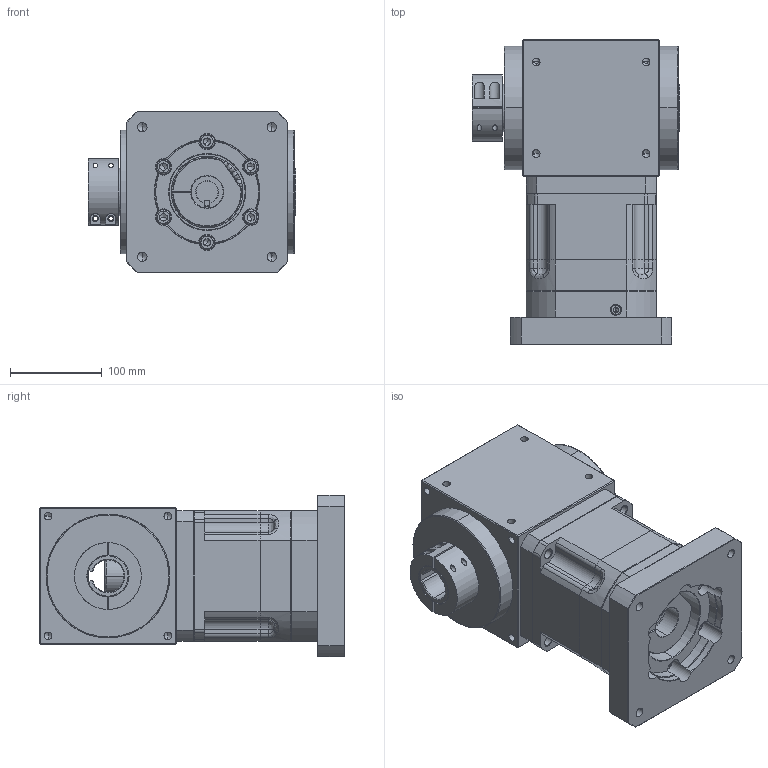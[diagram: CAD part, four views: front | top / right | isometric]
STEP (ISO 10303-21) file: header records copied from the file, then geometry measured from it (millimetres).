
FILE_DESCRIPTION (( 'STEP AP214' ), '1' );
FILE_NAME ('PAW150A-L1-C-K(3-10) 35-114.3-200-M12.STEP', '2021-04-24T08:21:43', ( 'Microsoft' ), ( 'Microsoft China' ), 'SwSTEP 2.0', 'SolidWorks 2016', '' );
FILE_SCHEMA (( 'AUTOMOTIVE_DESIGN' ));
Length unit declared in the file: millimetre
Products named in the file (28): Hex socket set screws with flat point GB_GB_FASTENER_SCREWS_HSFP M12X16-N; 俴陎謫5; 俴陎謫菜え13.6X27; 幗渀粣創13.513X18.513; 俴陎粣13.513; 怮栠謫5; Circlips for hole--Type B GB_GB_CONNECTING_PIECE_RINGS_CHB 110; 蚐猾60X110X12; 薊粣ん35; 笢潔楊擘; 萇儂楊擘D114.3M12; Circlips for shaft--Type A large GB_GB_CONNECTING_PIECE_RING_RRA 55; Deep groove ball bearings GB_Rolling bearings 6011 GB 276-94; 薊粣ん菜え35; Deep groove ball bearings GB_Rolling bearings 61821 GB 276-94; Hexagon socket head cap screws GB_GB_FASTENER_SCREWS_HSHCS M10X35-N; Deep groove ball bearings GB_Rolling bearings 6212 GB 276-94; Spring lock washers--Normal type GB_GB_FASTENER_WASHER_SW 10; 怀堤粣5; Circlips for hole--Type B GB_GB_CONNECTING_PIECE_RINGS_CHB 80; 一级齿圈Z108; Plain parallel keys_GB_CONNECTING_PIECE_KEYS_CSK C6X18; 150標杶_1; Hexagon socket head cap screws GB_GB_FASTENER_SCREWS_HSHCS M10X30-N; PAW150B-L1-2C-K--24-95-115-M8_1; Hexagon socket head cap screws GB_GB_FASTENER_SCREWS_HSHCS M8X35-N; Spring lock washers--Normal type GB_GB_FASTENER_WASHER_SW 8; PAW150A-L1-C-K(3-10) 35-114.3-200-M12
Assembly tree (55 placements, depth 2):
  PAW150A-L1-C-K(3-10) 35-114.3-200-M12
    PAW150B-L1-2C-K--24-95-115-M8_1
    150標杶_1
    一级齿圈Z108
    怀堤粣5
    Deep groove ball bearings GB_Rolling bearings 6212 GB 276-94
    Deep groove ball bearings GB_Rolling bearings 61821 GB 276-94
    Deep groove ball bearings GB_Rolling bearings 6011 GB 276-94
    萇儂楊擘D114.3M12
    笢潔楊擘
    薊粣ん35
    蚐猾60X110X12
    Circlips for hole--Type B GB_GB_CONNECTING_PIECE_RINGS_CHB 110
    怮栠謫5
    俴陎粣13.513  x3
    幗渀粣創13.513X18.513  x3
    俴陎謫菜え13.6X27  x6
    俴陎謫5  x3
    Hex socket set screws with flat point GB_GB_FASTENER_SCREWS_HSFP M12X16-N  x2
    Spring lock washers--Normal type GB_GB_FASTENER_WASHER_SW 8  x4
    Hexagon socket head cap screws GB_GB_FASTENER_SCREWS_HSHCS M8X35-N  x4
    Hexagon socket head cap screws GB_GB_FASTENER_SCREWS_HSHCS M10X30-N
    Plain parallel keys_GB_CONNECTING_PIECE_KEYS_CSK C6X18
    Circlips for hole--Type B GB_GB_CONNECTING_PIECE_RINGS_CHB 80
    Spring lock washers--Normal type GB_GB_FASTENER_WASHER_SW 10  x6
    Hexagon socket head cap screws GB_GB_FASTENER_SCREWS_HSHCS M10X35-N  x6
    薊粣ん菜え35
    Circlips for shaft--Type A large GB_GB_CONNECTING_PIECE_RING_RRA 55
Bounding box: 227 x 333.5 x 176 mm (x, y, z)
Volume: 7095592.7 mm3; surface area: 830708.4 mm2
Topology: 51 solids, 60 shells, 2111 faces, 6567 edges, 4084 vertices
Faces by surface type: cylinder 681, plane 545, bspline 495, cone 280, sphere 110
Entity records: 97344 total; most frequent: CARTESIAN_POINT 34420, ORIENTED_EDGE 10277, DIRECTION 7865, EDGE_CURVE 5147, VERTEX_POINT 3374, AXIS2_PLACEMENT_3D 3317, CIRCLE 2010, EDGE_LOOP 1930
